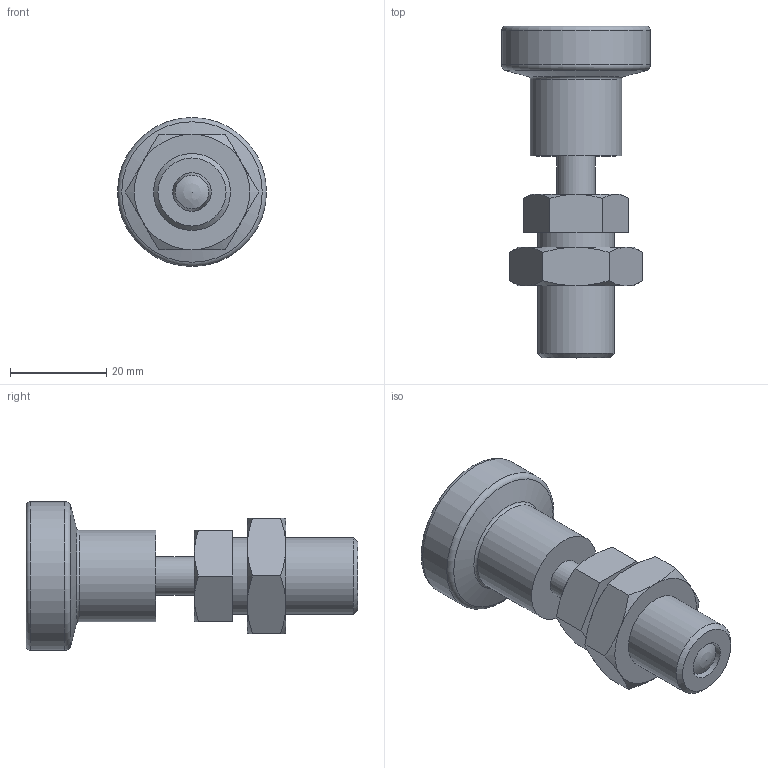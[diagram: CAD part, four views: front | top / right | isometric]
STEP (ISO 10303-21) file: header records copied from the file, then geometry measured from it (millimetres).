
FILE_DESCRIPTION( ( 'STEP AP203' ), '1' );
FILE_NAME( 'C:/Temp/Ganter_Step_05_03_2020/data/3_1/gn617_n/gn617n_akn/Stainless Steel Indexing plunger GN 617-8-AKN-NI (activated-3).stp', '2020-03-12T08:43:08', ( 'License CC BY-ND 4.0' ), ( 'CADENAS' ), ' ', 'PARTsolutions', ' ' );
FILE_SCHEMA( ( 'CONFIG_CONTROL_DESIGN' ) );
Length unit declared in the file: millimetre
Products named in the file (4): Stainless Steel Indexing plunger GN 617-8-AKN-NI (activated-3); _STAINLESS STEEL - Indexing plunger GN 617-8-AKN-NI (3) -2; _Rastbolzen GN 617-8-AKN-NI (1-3)-1; _STAINLESS STEEL - Indexing plunger GN 617-8-AKN-NI-3
Assembly tree (3 placements, depth 2):
  Stainless Steel Indexing plunger GN 617-8-AKN-NI (activated-3)
    _STAINLESS STEEL - Indexing plunger GN 617-8-AKN-NI (3) -2
    _Rastbolzen GN 617-8-AKN-NI (1-3)-1
    _STAINLESS STEEL - Indexing plunger GN 617-8-AKN-NI-3
Bounding box: 31 x 69 x 31 mm (x, y, z)
Volume: 21788.7 mm3; surface area: 9763.6 mm2
Topology: 3 solids, 3 shells, 61 faces, 123 edges, 73 vertices
Faces by surface type: plane 23, cone 23, cylinder 10, torus 3, bspline 1, sphere 1
Full cylindrical faces by diameter (mm): 8 x4, 14 x2, 14.376 x1, 16 x1, 18.99 x1, 31 x1
Entity records: 1756 total; most frequent: CARTESIAN_POINT 476, DIRECTION 238, ORIENTED_EDGE 200, AXIS2_PLACEMENT_3D 110, EDGE_CURVE 100, EDGE_LOOP 90, FACE_OUTER_BOUND 74, VERTEX_POINT 72
